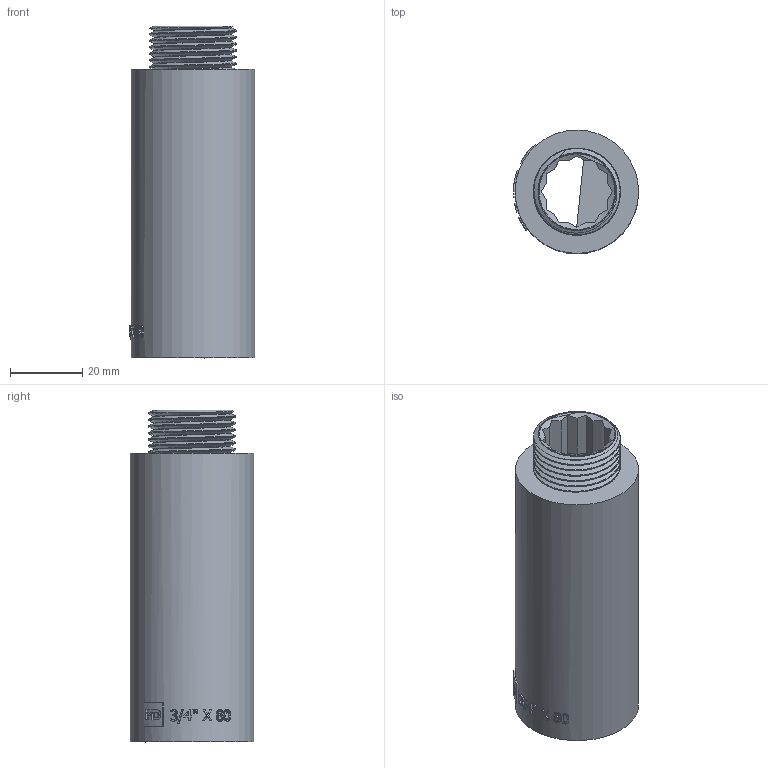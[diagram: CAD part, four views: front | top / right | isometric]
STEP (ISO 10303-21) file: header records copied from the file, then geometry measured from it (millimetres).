
FILE_DESCRIPTION(/* description */ (''),/* implementation_level */ '2;1');
FILE_NAME(/* name */ 'C:\Users\Doom\Desktop\Фадотех\Резьба\UN80 18.03.2020\UN80 18.03.2020.stp',/* time_stamp */ '2022-01-22T14:22:15+02:00',/* author */ ('Doom'),/* organization */ (''),/* preprocessor_version */ 'ST-DEVELOPER v18',/* originating_system */ 'Autodesk Inventor 2020',/* authorisation */ '');
FILE_SCHEMA (('AUTOMOTIVE_DESIGN { 1 0 10303 214 3 1 1 }'));
Length unit declared in the file: millimetre
Products named in the file (1): UD80 18.03.2020
Bounding box: 34.7 x 34.2 x 92 mm (x, y, z)
Volume: 38808.1 mm3; surface area: 27381.8 mm2
Topology: 3 solids, 3 shells, 215 faces, 586 edges, 392 vertices
Faces by surface type: bspline 83, plane 81, cylinder 47, cone 4
Full cylindrical faces by diameter (mm): 21.44 x2, 23.75 x17, 24.1 x1, 24.13 x5, 26.44 x2, 34.2 x1
Entity records: 20636 total; most frequent: CARTESIAN_POINT 15897, ORIENTED_EDGE 1164, DIRECTION 664, EDGE_CURVE 582, VERTEX_POINT 390, EDGE_LOOP 238, B_SPLINE_CURVE_WITH_KNOTS 228, AXIS2_PLACEMENT_3D 225
